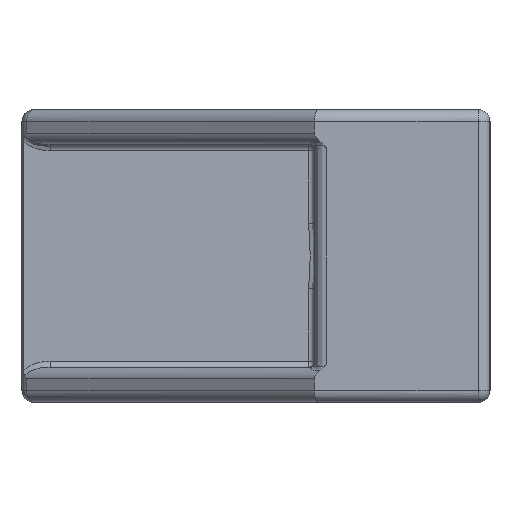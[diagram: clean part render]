
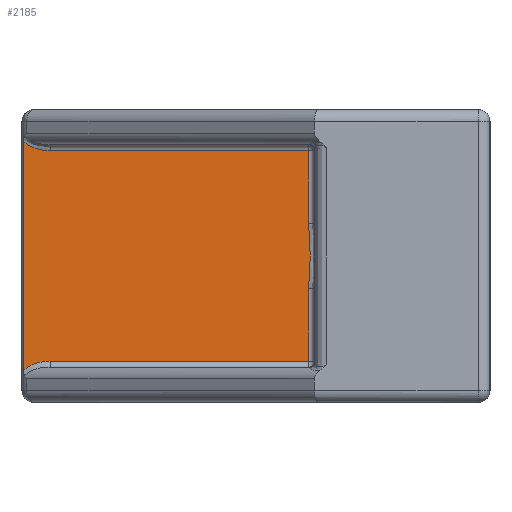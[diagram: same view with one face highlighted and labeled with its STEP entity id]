
A CAD part, left-side view. The second image highlights one B-rep face of the part: STEP entity #2185.
In plain terms, the highlighted planar face has unit normal (-1, 0, 0).
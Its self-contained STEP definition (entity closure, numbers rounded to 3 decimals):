
#9 = CARTESIAN_POINT ( 'NONE',  ( -115.18, 40., 29.388 ) ) ;
#92 = EDGE_CURVE ( 'NONE', #1284, #1065, #2642, .T. ) ;
#176 = CARTESIAN_POINT ( 'NONE',  ( -115.18, 15.366, 19.923 ) ) ;
#186 = LINE ( 'NONE', #315, #2604 ) ;
#232 = VERTEX_POINT ( 'NONE', #2338 ) ;
#245 = EDGE_CURVE ( 'NONE', #232, #2532, #1453, .T. ) ;
#309 = VECTOR ( 'NONE', #1479, 1000. ) ;
#315 = CARTESIAN_POINT ( 'NONE',  ( -115.18, 15.5, 20.388 ) ) ;
#343 = VECTOR ( 'NONE', #2232, 1000. ) ;
#374 = ORIENTED_EDGE ( 'NONE', *, *, #925, .T. ) ;
#540 = ORIENTED_EDGE ( 'NONE', *, *, #1621, .T. ) ;
#554 = CARTESIAN_POINT ( 'NONE',  ( -115.18, 40., 0. ) ) ;
#847 = ORIENTED_EDGE ( 'NONE', *, *, #871, .T. ) ;
#849 = AXIS2_PLACEMENT_3D ( 'NONE', #554, #1834, #2197 ) ;
#871 = EDGE_CURVE ( 'NONE', #1326, #3141, #1158, .T. ) ;
#905 = ORIENTED_EDGE ( 'NONE', *, *, #2578, .T. ) ;
#925 = EDGE_CURVE ( 'NONE', #1065, #1326, #3326, .T. ) ;
#927 = CARTESIAN_POINT ( 'NONE',  ( -115.18, 38.567, 11.388 ) ) ;
#941 = VECTOR ( 'NONE', #2208, 1000. ) ;
#1065 = VERTEX_POINT ( 'NONE', #2615 ) ;
#1079 = CARTESIAN_POINT ( 'NONE',  ( -115.18, 15.462, 22.243 ) ) ;
#1127 = CARTESIAN_POINT ( 'NONE',  ( -115.18, 37.594, 29.388 ) ) ;
#1158 = LINE ( 'NONE', #1421, #309 ) ;
#1175 = LINE ( 'NONE', #2797, #2748 ) ;
#1284 = VERTEX_POINT ( 'NONE', #2990 ) ;
#1326 = VERTEX_POINT ( 'NONE', #3502 ) ;
#1421 = CARTESIAN_POINT ( 'NONE',  ( -115.18, 40., 11.388 ) ) ;
#1453 = B_SPLINE_CURVE_WITH_KNOTS ( 'NONE', 3,
 ( #2913, #2188, #2354, #2065, #176, #2367, #2026, #1079, #2700, #1888 ),
 .UNSPECIFIED., .F., .F.,
 ( 4, 2, 2, 2, 4 ),
 ( 0., 0.001, 0.003, 0.004, 0.006 ),
 .UNSPECIFIED. ) ;
#1479 = DIRECTION ( 'NONE',  ( 0., -1., 0. ) ) ;
#1542 = CARTESIAN_POINT ( 'NONE',  ( -115.18, 39.859, 10.595 ) ) ;
#1593 = CARTESIAN_POINT ( 'NONE',  ( -115.18, 39.859, 30.182 ) ) ;
#1621 = EDGE_CURVE ( 'NONE', #2767, #1284, #2697, .T. ) ;
#1667 = CARTESIAN_POINT ( 'NONE',  ( -115.18, 39.859, 30.491 ) ) ;
#1834 = DIRECTION ( 'NONE',  ( -1., 0., 0. ) ) ;
#1888 = CARTESIAN_POINT ( 'NONE',  ( -115.18, 15.5, 23.172 ) ) ;
#1933 = CARTESIAN_POINT ( 'NONE',  ( -115.18, 15.5, 29.388 ) ) ;
#1939 = LINE ( 'NONE', #9, #343 ) ;
#1945 = CARTESIAN_POINT ( 'NONE',  ( -115.18, 15.5, 23.172 ) ) ;
#2010 = ORIENTED_EDGE ( 'NONE', *, *, #2433, .T. ) ;
#2026 = CARTESIAN_POINT ( 'NONE',  ( -115.18, 15.394, 21.315 ) ) ;
#2065 = CARTESIAN_POINT ( 'NONE',  ( -115.18, 15.394, 19.459 ) ) ;
#2118 = CARTESIAN_POINT ( 'NONE',  ( -115.18, 37.594, 11.388 ) ) ;
#2185 = ADVANCED_FACE ( 'NONE', ( #3287 ), #2936, .T. ) ;
#2188 = CARTESIAN_POINT ( 'NONE',  ( -115.18, 15.5, 18.069 ) ) ;
#2197 = DIRECTION ( 'NONE',  ( 0., 0., -1. ) ) ;
#2208 = DIRECTION ( 'NONE',  ( 0., 0., -1. ) ) ;
#2232 = DIRECTION ( 'NONE',  ( 0., 1., 0. ) ) ;
#2247 = DIRECTION ( 'NONE',  ( 0., 0., 1. ) ) ;
#2338 = CARTESIAN_POINT ( 'NONE',  ( -115.18, 15.5, 17.604 ) ) ;
#2339 = ORIENTED_EDGE ( 'NONE', *, *, #4023, .T. ) ;
#2354 = CARTESIAN_POINT ( 'NONE',  ( -115.18, 15.462, 18.532 ) ) ;
#2367 = CARTESIAN_POINT ( 'NONE',  ( -115.18, 15.366, 20.851 ) ) ;
#2373 = CARTESIAN_POINT ( 'NONE',  ( -115.18, 15.5, 11.388 ) ) ;
#2433 = EDGE_CURVE ( 'NONE', #3141, #232, #186, .T. ) ;
#2532 = VERTEX_POINT ( 'NONE', #1945 ) ;
#2578 = EDGE_CURVE ( 'NONE', #2532, #4038, #1175, .T. ) ;
#2604 = VECTOR ( 'NONE', #2247, 1000. ) ;
#2606 = EDGE_LOOP ( 'NONE', ( #3083, #374, #847, #2010, #3253, #905, #2339, #540 ) ) ;
#2615 = CARTESIAN_POINT ( 'NONE',  ( -115.18, 39.859, 10.595 ) ) ;
#2642 = LINE ( 'NONE', #1667, #941 ) ;
#2697 =( BOUNDED_CURVE ( )  B_SPLINE_CURVE ( 3, ( #1127, #2903, #4053, #1593 ),
 .UNSPECIFIED., .F., .T. ) 
 B_SPLINE_CURVE_WITH_KNOTS ( ( 4, 4 ),
 ( 1.571, 2.651 ),
 .UNSPECIFIED. ) 
 CURVE ( )  GEOMETRIC_REPRESENTATION_ITEM ( )  RATIONAL_B_SPLINE_CURVE ( ( 1., 0.905, 0.905, 1. ) ) 
 REPRESENTATION_ITEM ( '' )  );
#2700 = CARTESIAN_POINT ( 'NONE',  ( -115.18, 15.5, 22.707 ) ) ;
#2748 = VECTOR ( 'NONE', #3985, 1000. ) ;
#2767 = VERTEX_POINT ( 'NONE', #3130 ) ;
#2797 = CARTESIAN_POINT ( 'NONE',  ( -115.18, 15.5, 29.888 ) ) ;
#2903 = CARTESIAN_POINT ( 'NONE',  ( -115.18, 38.567, 29.388 ) ) ;
#2913 = CARTESIAN_POINT ( 'NONE',  ( -115.18, 15.5, 17.604 ) ) ;
#2936 = PLANE ( 'NONE',  #849 ) ;
#2990 = CARTESIAN_POINT ( 'NONE',  ( -115.18, 39.859, 30.182 ) ) ;
#3083 = ORIENTED_EDGE ( 'NONE', *, *, #92, .T. ) ;
#3130 = CARTESIAN_POINT ( 'NONE',  ( -115.18, 37.594, 29.388 ) ) ;
#3141 = VERTEX_POINT ( 'NONE', #2373 ) ;
#3253 = ORIENTED_EDGE ( 'NONE', *, *, #245, .T. ) ;
#3287 = FACE_OUTER_BOUND ( 'NONE', #2606, .T. ) ;
#3326 =( BOUNDED_CURVE ( )  B_SPLINE_CURVE ( 3, ( #1542, #3994, #927, #2118 ),
 .UNSPECIFIED., .F., .T. ) 
 B_SPLINE_CURVE_WITH_KNOTS ( ( 4, 4 ),
 ( 0.49, 1.571 ),
 .UNSPECIFIED. ) 
 CURVE ( )  GEOMETRIC_REPRESENTATION_ITEM ( )  RATIONAL_B_SPLINE_CURVE ( ( 1., 0.905, 0.905, 1. ) ) 
 REPRESENTATION_ITEM ( '' )  );
#3502 = CARTESIAN_POINT ( 'NONE',  ( -115.18, 37.594, 11.388 ) ) ;
#3985 = DIRECTION ( 'NONE',  ( 0., 0., 1. ) ) ;
#3994 = CARTESIAN_POINT ( 'NONE',  ( -115.18, 39.401, 11.096 ) ) ;
#4023 = EDGE_CURVE ( 'NONE', #4038, #2767, #1939, .T. ) ;
#4038 = VERTEX_POINT ( 'NONE', #1933 ) ;
#4053 = CARTESIAN_POINT ( 'NONE',  ( -115.18, 39.401, 29.681 ) ) ;
